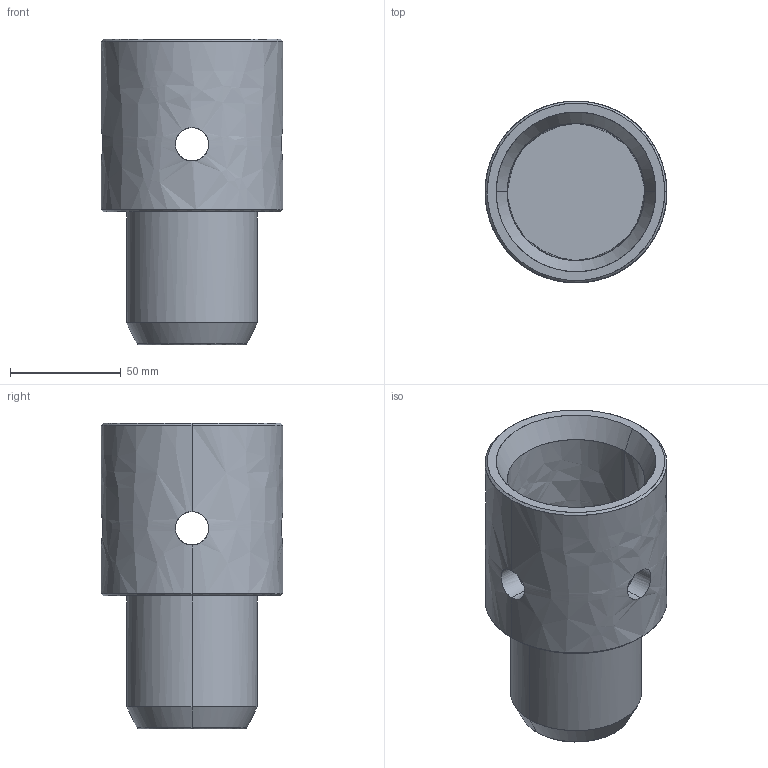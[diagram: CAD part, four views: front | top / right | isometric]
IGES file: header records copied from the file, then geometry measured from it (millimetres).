
Global section: file name: E:\UnigraphicsGraphicData\MISUMI_PRESS-PARTS\IGES\3d_kpb60_07047_r00.igs; native system: NX V5.0; preprocessor: UGS NX IGES V5.0; author: MISUMI; date: 20110105.161142; units: millimetre
Bounding box: 82 x 82 x 138 mm (x, y, z)
Surface area: 52502.8 mm2 (no closed solid volume)
Topology: 0 solids, 0 shells, 32 faces, 326 edges, 324 vertices
Faces by surface type: bspline 32
